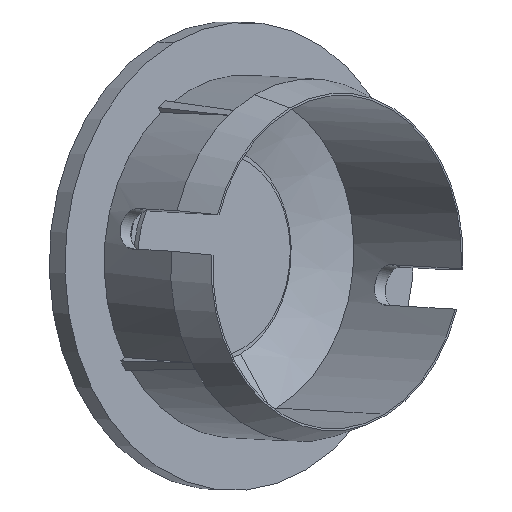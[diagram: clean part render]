
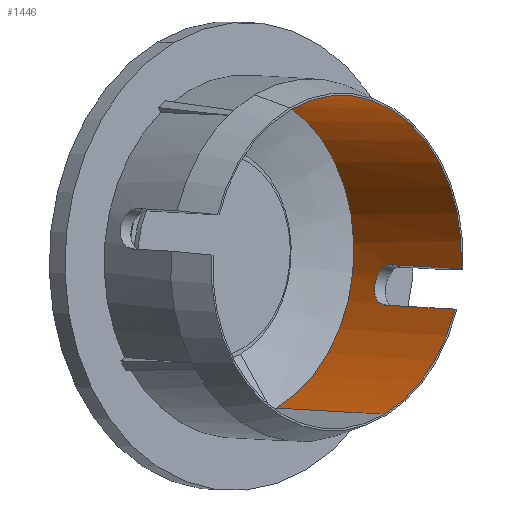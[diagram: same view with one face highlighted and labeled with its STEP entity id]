
A CAD part, isometric view. The second image highlights one B-rep face of the part: STEP entity #1446.
In plain terms, the highlighted cylindrical face has radius 14.25 mm (diameter 28.5 mm), a partial arc.
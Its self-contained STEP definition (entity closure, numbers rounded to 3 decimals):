
#31 = CARTESIAN_POINT ( 'NONE',  ( -7.23, 91.78, 74.28 ) ) ;
#39 = CARTESIAN_POINT ( 'NONE',  ( -7.236, 91.968, 74.199 ) ) ;
#44 = LINE ( 'NONE', #541, #1111 ) ;
#46 = EDGE_CURVE ( 'NONE', #1362, #974, #741, .T. ) ;
#69 = EDGE_CURVE ( 'NONE', #1100, #1362, #273, .T. ) ;
#87 = DIRECTION ( 'NONE',  ( 0.027, -0.917, 0.398 ) ) ;
#128 = DIRECTION ( 'NONE',  ( 0.027, -0.917, 0.398 ) ) ;
#131 = ORIENTED_EDGE ( 'NONE', *, *, #1130, .F. ) ;
#157 = EDGE_LOOP ( 'NONE', ( #661, #131, #379, #1461, #1310, #1604, #1504, #1452, #1370 ) ) ;
#183 = CARTESIAN_POINT ( 'NONE',  ( -7.513, 92.754, 73.335 ) ) ;
#188 = VECTOR ( 'NONE', #128, 1000. ) ;
#204 = DIRECTION ( 'NONE',  ( 0., -0.398, -0.917 ) ) ;
#223 = VERTEX_POINT ( 'NONE', #991 ) ;
#253 = EDGE_CURVE ( 'NONE', #1823, #634, #1267, .T. ) ;
#273 = B_SPLINE_CURVE_WITH_KNOTS ( 'NONE', 3,
 ( #1813, #543, #1827, #1530 ),
 .UNSPECIFIED., .F., .F.,
 ( 4, 4 ),
 ( 0.005, 0.005 ),
 .UNSPECIFIED. ) ;
#314 = CARTESIAN_POINT ( 'NONE',  ( -8.922, 82.318, 75.208 ) ) ;
#335 = CARTESIAN_POINT ( 'NONE',  ( -8.543, 92.406, 71.737 ) ) ;
#378 = VECTOR ( 'NONE', #1047, 1000. ) ;
#379 = ORIENTED_EDGE ( 'NONE', *, *, #1758, .T. ) ;
#466 = CARTESIAN_POINT ( 'NONE',  ( -7.257, 92.138, 74.09 ) ) ;
#477 = VERTEX_POINT ( 'NONE', #1475 ) ;
#482 = CARTESIAN_POINT ( 'NONE',  ( -19.74, 85.745, 83.827 ) ) ;
#541 = CARTESIAN_POINT ( 'NONE',  ( -6.989, 83.528, 77.864 ) ) ;
#543 = CARTESIAN_POINT ( 'NONE',  ( -9.148, 90.97, 71.484 ) ) ;
#557 = DIRECTION ( 'NONE',  ( -0.027, 0.917, -0.398 ) ) ;
#584 = DIRECTION ( 'NONE',  ( 0.027, -0.917, 0.398 ) ) ;
#602 = CARTESIAN_POINT ( 'NONE',  ( -20.108, 92.676, 65.282 ) ) ;
#625 = CARTESIAN_POINT ( 'NONE',  ( -9.002, 91.566, 71.435 ) ) ;
#634 = VERTEX_POINT ( 'NONE', #1548 ) ;
#639 = DIRECTION ( 'NONE',  ( 0., -0.398, -0.917 ) ) ;
#647 = CARTESIAN_POINT ( 'NONE',  ( -9.106, 91.172, 71.457 ) ) ;
#661 = ORIENTED_EDGE ( 'NONE', *, *, #253, .F. ) ;
#736 = EDGE_CURVE ( 'NONE', #477, #223, #44, .T. ) ;
#741 = LINE ( 'NONE', #811, #378 ) ;
#760 = CARTESIAN_POINT ( 'NONE',  ( -7.874, 92.878, 72.621 ) ) ;
#795 = LINE ( 'NONE', #1541, #188 ) ;
#811 = CARTESIAN_POINT ( 'NONE',  ( -8.922, 82.318, 75.208 ) ) ;
#832 = VERTEX_POINT ( 'NONE', #602 ) ;
#910 = CARTESIAN_POINT ( 'NONE',  ( -19.74, 80.069, 70.757 ) ) ;
#942 = AXIS2_PLACEMENT_3D ( 'NONE', #1239, #1402, #1528 ) ;
#974 = VERTEX_POINT ( 'NONE', #314 ) ;
#991 = CARTESIAN_POINT ( 'NONE',  ( -7.23, 91.78, 74.28 ) ) ;
#1015 = CARTESIAN_POINT ( 'NONE',  ( -7.592, 92.819, 73.158 ) ) ;
#1026 = CARTESIAN_POINT ( 'NONE',  ( -7.774, 92.881, 72.798 ) ) ;
#1036 = AXIS2_PLACEMENT_3D ( 'NONE', #1648, #87, #1357 ) ;
#1040 = EDGE_CURVE ( 'NONE', #634, #477, #1279, .T. ) ;
#1044 = DIRECTION ( 'NONE',  ( -0.027, 0.917, -0.398 ) ) ;
#1047 = DIRECTION ( 'NONE',  ( 0.027, -0.917, 0.398 ) ) ;
#1100 = VERTEX_POINT ( 'NONE', #647 ) ;
#1111 = VECTOR ( 'NONE', #557, 1000. ) ;
#1130 = EDGE_CURVE ( 'NONE', #832, #1823, #1355, .T. ) ;
#1147 = CIRCLE ( 'NONE', #942, 14.25 ) ;
#1156 = CARTESIAN_POINT ( 'NONE',  ( -8.205, 92.734, 72.125 ) ) ;
#1165 = CARTESIAN_POINT ( 'NONE',  ( -8.429, 92.536, 71.854 ) ) ;
#1188 = CARTESIAN_POINT ( 'NONE',  ( -9.106, 91.172, 71.457 ) ) ;
#1239 = CARTESIAN_POINT ( 'NONE',  ( -19.74, 85.745, 83.827 ) ) ;
#1267 = LINE ( 'NONE', #1691, #1332 ) ;
#1279 = CIRCLE ( 'NONE', #1388, 14.25 ) ;
#1283 = CARTESIAN_POINT ( 'NONE',  ( -9.163, 90.57, 71.625 ) ) ;
#1303 = CARTESIAN_POINT ( 'NONE',  ( -8.749, 92.106, 71.561 ) ) ;
#1310 = ORIENTED_EDGE ( 'NONE', *, *, #46, .F. ) ;
#1329 = DIRECTION ( 'NONE',  ( 0.027, -0.917, 0.398 ) ) ;
#1332 = VECTOR ( 'NONE', #584, 1000. ) ;
#1355 = CIRCLE ( 'NONE', #1036, 14.25 ) ;
#1357 = DIRECTION ( 'NONE',  ( 0., -0.398, -0.917 ) ) ;
#1362 = VERTEX_POINT ( 'NONE', #1283 ) ;
#1370 = ORIENTED_EDGE ( 'NONE', *, *, #1040, .F. ) ;
#1388 = AXIS2_PLACEMENT_3D ( 'NONE', #1472, #1044, #204 ) ;
#1402 = DIRECTION ( 'NONE',  ( -0.027, 0.917, -0.398 ) ) ;
#1415 = EDGE_CURVE ( 'NONE', #223, #1100, #1462, .T. ) ;
#1440 = CARTESIAN_POINT ( 'NONE',  ( -8.09, 92.805, 72.282 ) ) ;
#1445 = CARTESIAN_POINT ( 'NONE',  ( -7.33, 92.439, 73.823 ) ) ;
#1446 = ADVANCED_FACE ( 'NONE', ( #1721 ), #1698, .F. ) ;
#1452 = ORIENTED_EDGE ( 'NONE', *, *, #736, .F. ) ;
#1453 = CARTESIAN_POINT ( 'NONE',  ( -8.844, 91.933, 71.499 ) ) ;
#1461 = ORIENTED_EDGE ( 'NONE', *, *, #1722, .F. ) ;
#1462 = B_SPLINE_CURVE_WITH_KNOTS ( 'NONE', 3,
 ( #31, #39, #466, #1445, #1600, #183, #1015, #1026, #760, #1440, #1156, #1165, #335, #1303, #1453, #625, #1605, #1188 ),
 .UNSPECIFIED., .F., .F.,
 ( 4, 2, 2, 2, 2, 2, 2, 2, 4 ),
 ( 0., 0.001, 0.001, 0.002, 0.002, 0.003, 0.004, 0.004, 0.005 ),
 .UNSPECIFIED. ) ;
#1472 = CARTESIAN_POINT ( 'NONE',  ( -19.74, 85.745, 83.827 ) ) ;
#1475 = CARTESIAN_POINT ( 'NONE',  ( -6.989, 83.528, 77.864 ) ) ;
#1477 = VERTEX_POINT ( 'NONE', #910 ) ;
#1493 = AXIS2_PLACEMENT_3D ( 'NONE', #482, #1329, #639 ) ;
#1504 = ORIENTED_EDGE ( 'NONE', *, *, #1415, .F. ) ;
#1528 = DIRECTION ( 'NONE',  ( 0., -0.398, -0.917 ) ) ;
#1530 = CARTESIAN_POINT ( 'NONE',  ( -9.163, 90.57, 71.625 ) ) ;
#1541 = CARTESIAN_POINT ( 'NONE',  ( -19.74, 80.069, 70.757 ) ) ;
#1548 = CARTESIAN_POINT ( 'NONE',  ( -19.74, 91.421, 96.898 ) ) ;
#1600 = CARTESIAN_POINT ( 'NONE',  ( -7.382, 92.563, 73.67 ) ) ;
#1604 = ORIENTED_EDGE ( 'NONE', *, *, #69, .F. ) ;
#1605 = CARTESIAN_POINT ( 'NONE',  ( -9.065, 91.369, 71.432 ) ) ;
#1648 = CARTESIAN_POINT ( 'NONE',  ( -20.108, 98.352, 78.352 ) ) ;
#1691 = CARTESIAN_POINT ( 'NONE',  ( -19.74, 91.421, 96.898 ) ) ;
#1698 = CYLINDRICAL_SURFACE ( 'NONE', #1493, 14.25 ) ;
#1721 = FACE_OUTER_BOUND ( 'NONE', #157, .T. ) ;
#1722 = EDGE_CURVE ( 'NONE', #974, #1477, #1147, .T. ) ;
#1725 = CARTESIAN_POINT ( 'NONE',  ( -20.108, 104.028, 91.423 ) ) ;
#1758 = EDGE_CURVE ( 'NONE', #832, #1477, #795, .T. ) ;
#1813 = CARTESIAN_POINT ( 'NONE',  ( -9.106, 91.172, 71.457 ) ) ;
#1823 = VERTEX_POINT ( 'NONE', #1725 ) ;
#1827 = CARTESIAN_POINT ( 'NONE',  ( -9.168, 90.764, 71.541 ) ) ;
